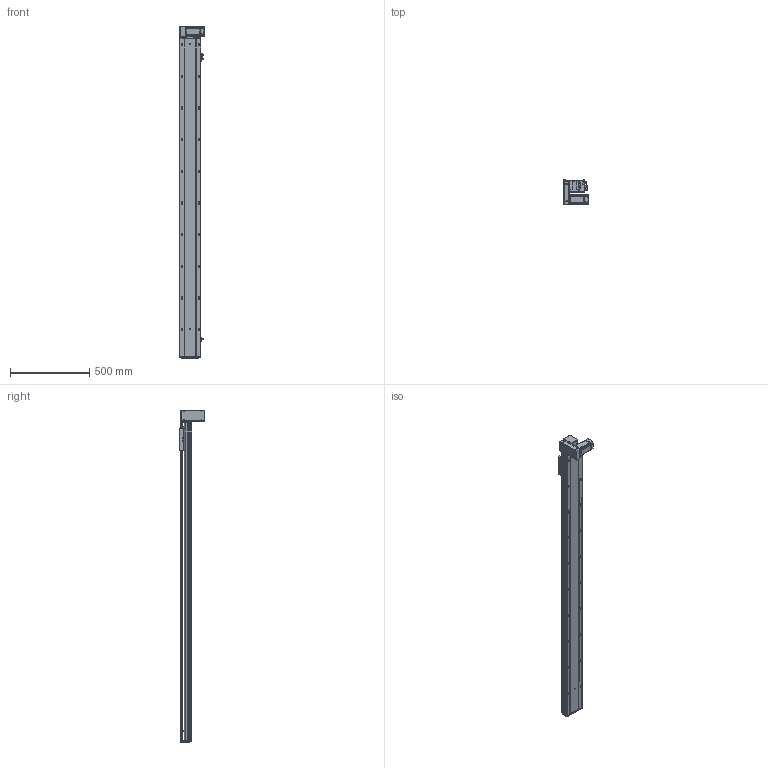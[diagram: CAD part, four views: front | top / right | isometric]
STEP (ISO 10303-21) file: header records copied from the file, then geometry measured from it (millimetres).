
FILE_DESCRIPTION (( 'STEP AP203' ), '1' );
FILE_NAME ('RY140-T-300-DL.SLDASM_1750.step', '2021-03-01T06:07:30', ( '盈信电脑' ), ( '东莞市道滘镇水果街19号' ), 'SwSTEP 2.0', 'SolidWorks 2012', '' );
FILE_SCHEMA (( 'CONFIG_CONTROL_DESIGN' ));
Length unit declared in the file: millimetre
Products named in the file (18): RY140-T翋肮謫裔啣; 滅袉蝶18-10; RY140-T-300-DL.SLDASM_1750; RY140-T萇儂欶; 15; RY120-T蹟翐M4; RY120-T主同步轮轴承压盖; 侂狟400W侜督萇儂; RY140-T萇儂假蚾啣; RY120-T肮祭湍揤踡輸1; RY140-T翋肮祭謫盓傅釱; 覜茼ん672; RY140綴裔啣; RY120-T肮祭湍揤踡輸2; RY120外置感应片(140共用）; RY140肮祭謫臏賑輸; RY140-T-300-DL倰第奻裔啣_1750; RY140-T-300-DL倰第菁釱_1750
Assembly tree (23 placements, depth 3):
  RY140-T-300-DL.SLDASM_1750
    RY140-T-300-DL倰第菁釱_1750
    RY140肮祭謫臏賑輸
    RY140-T-300-DL倰第奻裔啣_1750
    RY140綴裔啣
    覜茼ん672  x3
    RY120外置感应片(140共用）
    RY120-T肮祭湍揤踡輸2
    RY120-T肮祭湍揤踡輸1
    RY140-T翋肮祭謫盓傅釱
    RY140-T萇儂假蚾啣
    侂狟400W侜督萇儂
      15
    RY120-T主同步轮轴承压盖
    RY120-T蹟翐M4  x4
    RY140-T萇儂欶
    滅袉蝶18-10  x2
    RY140-T翋肮謫裔啣
Bounding box: 157 x 158.5 x 2096 mm (x, y, z)
Volume: 5790991.2 mm3; surface area: 2257084.8 mm2
Topology: 22 solids, 22 shells, 2834 faces, 7770 edges, 4950 vertices
Faces by surface type: plane 1385, cylinder 1075, cone 274, bspline 100
Entity records: 89512 total; most frequent: CARTESIAN_POINT 21685, ORIENTED_EDGE 13916, DIRECTION 13324, EDGE_CURVE 6958, VERTEX_POINT 4549, AXIS2_PLACEMENT_3D 4473, LINE 4378, VECTOR 4378
